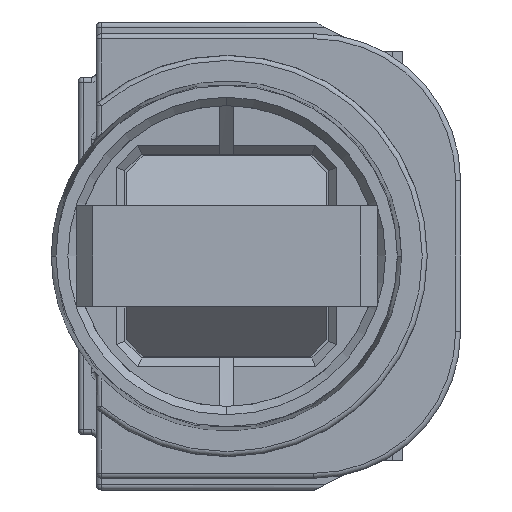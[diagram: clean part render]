
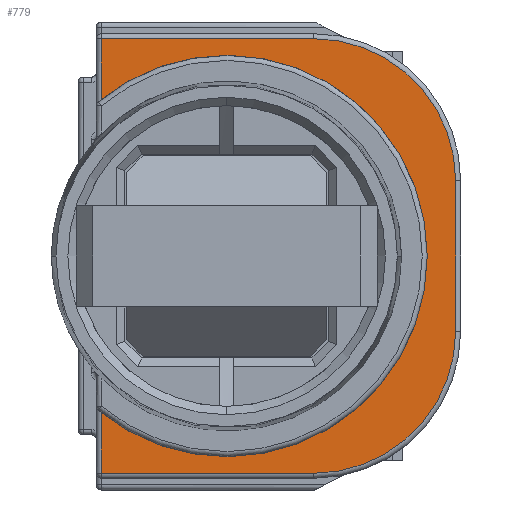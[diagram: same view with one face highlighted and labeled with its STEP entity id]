
A CAD part, front view. The second image highlights one B-rep face of the part: STEP entity #779.
In plain terms, the highlighted planar face has unit normal (0, -1, 0).
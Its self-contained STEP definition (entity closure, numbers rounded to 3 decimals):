
#444=FACE_OUTER_BOUND('',#1565,.T.);
#779=ADVANCED_FACE('',(#444),#1102,.T.);
#1102=PLANE('',#6052);
#1244=CIRCLE('',#6020,12.);
#1260=CIRCLE('',#6050,8.5);
#1261=CIRCLE('',#6051,8.5);
#1565=EDGE_LOOP('',(#2146,#2147,#2148,#2149,#2150,#2151,#2152,#2153));
#2146=ORIENTED_EDGE('',*,*,#4232,.F.);
#2147=ORIENTED_EDGE('',*,*,#4271,.T.);
#2148=ORIENTED_EDGE('',*,*,#4272,.T.);
#2149=ORIENTED_EDGE('',*,*,#4273,.T.);
#2150=ORIENTED_EDGE('',*,*,#4274,.T.);
#2151=ORIENTED_EDGE('',*,*,#4275,.T.);
#2152=ORIENTED_EDGE('',*,*,#4276,.T.);
#2153=ORIENTED_EDGE('',*,*,#4225,.T.);
#3678=VERTEX_POINT('',#8571);
#3679=VERTEX_POINT('',#8572);
#3684=VERTEX_POINT('',#8601);
#3702=VERTEX_POINT('',#8910);
#3703=VERTEX_POINT('',#8914);
#3704=VERTEX_POINT('',#8916);
#3705=VERTEX_POINT('',#8918);
#3706=VERTEX_POINT('',#8920);
#4225=EDGE_CURVE('',#3678,#3679,#5067,.T.);
#4232=EDGE_CURVE('',#3684,#3679,#1244,.T.);
#4271=EDGE_CURVE('',#3684,#3702,#5074,.T.);
#4272=EDGE_CURVE('',#3702,#3703,#5075,.T.);
#4273=EDGE_CURVE('',#3703,#3704,#1260,.T.);
#4274=EDGE_CURVE('',#3704,#3705,#5076,.T.);
#4275=EDGE_CURVE('',#3705,#3706,#1261,.T.);
#4276=EDGE_CURVE('',#3706,#3678,#5077,.T.);
#5067=LINE('',#8570,#5580);
#5074=LINE('',#8911,#5587);
#5075=LINE('',#8913,#5588);
#5076=LINE('',#8917,#5589);
#5077=LINE('',#8921,#5590);
#5580=VECTOR('',#6753,1.);
#5587=VECTOR('',#6824,1.);
#5588=VECTOR('',#6827,1.);
#5589=VECTOR('',#6830,1.);
#5590=VECTOR('',#6833,1.);
#6020=AXIS2_PLACEMENT_3D('',#8602,#6761,#6762);
#6050=AXIS2_PLACEMENT_3D('',#8915,#6828,#6829);
#6051=AXIS2_PLACEMENT_3D('',#8919,#6831,#6832);
#6052=AXIS2_PLACEMENT_3D('',#8922,#6834,#6835);
#6753=DIRECTION('',(0.,0.,-1.));
#6761=DIRECTION('',(0.,-1.,0.));
#6762=DIRECTION('',(-0.625,0.,-0.781));
#6824=DIRECTION('',(0.,0.,-1.));
#6827=DIRECTION('',(1.,0.,0.));
#6828=DIRECTION('',(0.,-1.,0.));
#6829=DIRECTION('',(0.,0.,-1.));
#6830=DIRECTION('',(0.,0.,1.));
#6831=DIRECTION('',(0.,-1.,0.));
#6832=DIRECTION('',(1.,0.,0.));
#6833=DIRECTION('',(-1.,0.,0.));
#6834=DIRECTION('',(0.,-1.,0.));
#6835=DIRECTION('',(-1.,0.,0.));
#8570=CARTESIAN_POINT('',(-9.2,-20.4,13.));
#8571=CARTESIAN_POINT('',(-9.2,-20.4,13.));
#8572=CARTESIAN_POINT('',(-9.2,-20.4,9.367));
#8601=CARTESIAN_POINT('',(-9.2,-20.4,-9.367));
#8602=CARTESIAN_POINT('',(-1.7,-20.4,0.));
#8910=CARTESIAN_POINT('',(-9.2,-20.4,-13.));
#8911=CARTESIAN_POINT('',(-9.2,-20.4,-9.367));
#8913=CARTESIAN_POINT('',(-9.2,-20.4,-13.));
#8914=CARTESIAN_POINT('',(3.5,-20.4,-13.));
#8915=CARTESIAN_POINT('',(3.5,-20.4,-4.5));
#8916=CARTESIAN_POINT('',(12.,-20.4,-4.5));
#8917=CARTESIAN_POINT('',(12.,-20.4,-4.5));
#8918=CARTESIAN_POINT('',(12.,-20.4,4.5));
#8919=CARTESIAN_POINT('',(3.5,-20.4,4.5));
#8920=CARTESIAN_POINT('',(3.5,-20.4,13.));
#8921=CARTESIAN_POINT('',(3.5,-20.4,13.));
#8922=CARTESIAN_POINT('',(-9.5,-20.4,0.));
